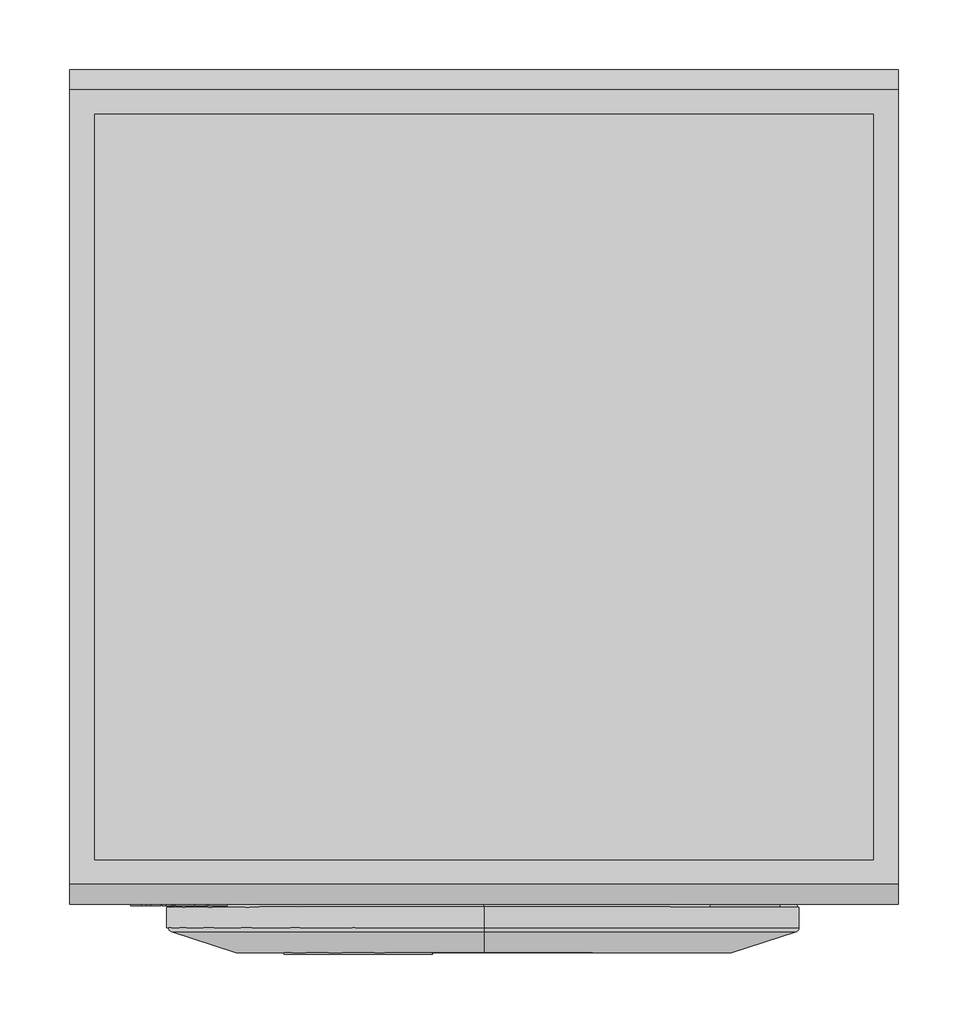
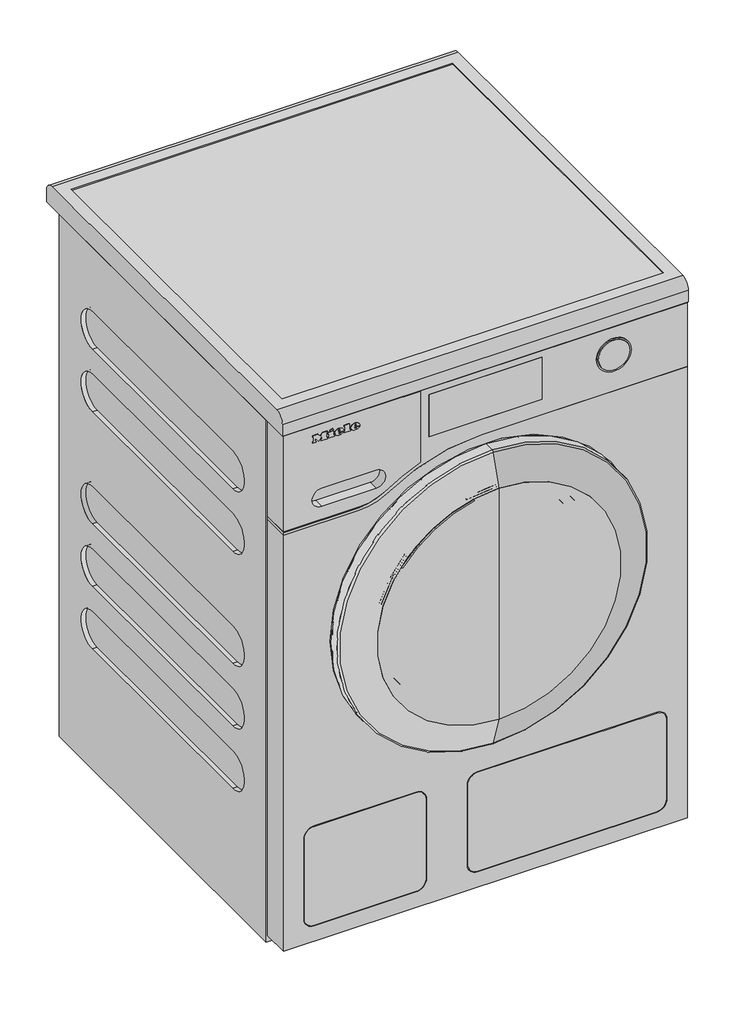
# Not in any storey: 1 proxy.
"""IFC4 building model written with IfcOpenShell, lengths in millimetres."""

from ifc_helpers import new_model, si_unit, origin, place, context, project, spatial, transform, mapped, element, save
from components import specialty_equipment_65e13c43, specialty_equipment_07e524df

model = new_model("IFC4")

# Units and contexts
model_context = context("Model", 3, world=origin())
ifc_project = project(units=[si_unit("LENGTHUNIT", "METRE", prefix="MILLI")], contexts=[model_context])

# Site, building
site = spatial("IfcSite", under=ifc_project)
building = spatial("IfcBuilding", under=site)

# Proxy
placement = place(None, origin())
specialty_equipment_shape = specialty_equipment_65e13c43(model_context)
specialty_equipment_2_shape = specialty_equipment_07e524df(model_context)
element("IfcBuildingElementProxy", 1, Name="10999490_SG_WCR860WPS_LW : 11CR8606_SG_10999490_WCR860WPS_LW", ObjectType="10999490_SG_WCR860WPS_LW : 11CR8606_SG_10999490_WCR860WPS_LW", at=placement, inside=building, context=model_context, shape_type="MappedRepresentation", body=[
    mapped(specialty_equipment_shape, transform((0.0, 0.0, 0.0), x_axis=(1.0, 0.0, 0.0), y_axis=(0.0, 1.0, 0.0), z_axis=(0.0, 0.0, 1.0))),
    mapped(specialty_equipment_2_shape, transform((0.0, 0.0, 0.0), x_axis=(1.0, 0.0, 0.0), y_axis=(0.0, 1.0, 0.0), z_axis=(0.0, 0.0, 1.0))),
])

save(model, "model.ifc")
